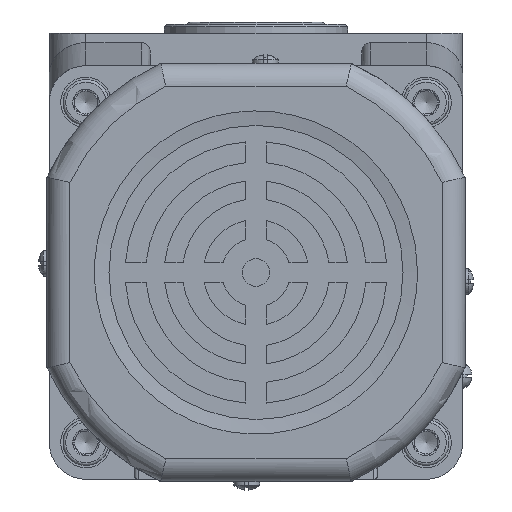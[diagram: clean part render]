
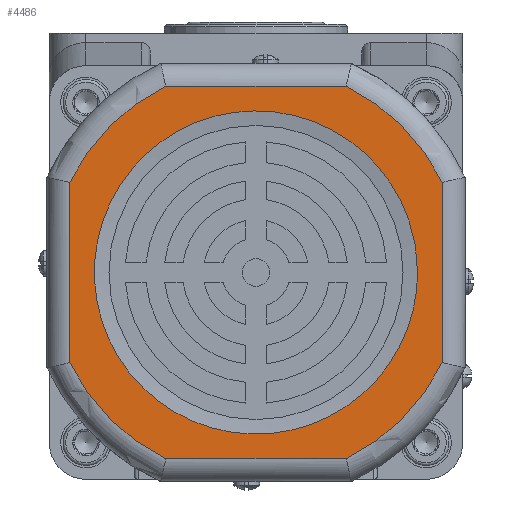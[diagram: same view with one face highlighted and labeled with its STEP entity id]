
A CAD part, front view. The second image highlights one B-rep face of the part: STEP entity #4486.
In plain terms, the highlighted planar face has unit normal (0, -1, 0).
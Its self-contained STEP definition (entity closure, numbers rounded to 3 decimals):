
#1315=LINE('',#21899,#2098);
#1316=LINE('',#21901,#2099);
#1318=LINE('',#21904,#2101);
#1320=LINE('',#21907,#2103);
#2098=VECTOR('',#17512,1.);
#2099=VECTOR('',#17515,1.);
#2101=VECTOR('',#17519,1.);
#2103=VECTOR('',#17523,1.);
#2419=B_SPLINE_CURVE_WITH_KNOTS('',3,(#21910,#21911,#21912,#21913,#21914,
#21915,#21916,#21917,#21918,#21919,#21920,#21921,#21922,#21923,#21924,#21925,
#21926,#21927,#21928,#21929,#21930,#21931,#21932,#21933,#21934,#21935,#21936,
#21937,#21938,#21939,#21940,#21941,#21942,#21943),.UNSPECIFIED.,.T.,.F.,
(2,2,2,2,2,2,2,2,2,2,2,2,2,2,2,2,2,2,2),(-0.062,0.,0.063,
0.125,0.188,0.25,0.313,0.375,0.438,0.5,0.563,0.625,0.688,0.75,0.813,
0.875,0.938,1.,1.063),.UNSPECIFIED.);
#4486=ADVANCED_FACE('',(#5320,#5321),#4948,.T.);
#4948=PLANE('',#14335);
#5320=FACE_BOUND('',#6129,.T.);
#5321=FACE_BOUND('',#6130,.T.);
#6129=EDGE_LOOP('',(#8859));
#6130=EDGE_LOOP('',(#8860,#8861,#8862,#8863,#8864,#8865,#8866,#8867));
#8859=ORIENTED_EDGE('',*,*,#11921,.F.);
#8860=ORIENTED_EDGE('',*,*,#11914,.T.);
#8861=ORIENTED_EDGE('',*,*,#11910,.T.);
#8862=ORIENTED_EDGE('',*,*,#11919,.T.);
#8863=ORIENTED_EDGE('',*,*,#11906,.T.);
#8864=ORIENTED_EDGE('',*,*,#11917,.T.);
#8865=ORIENTED_EDGE('',*,*,#11902,.T.);
#8866=ORIENTED_EDGE('',*,*,#11915,.T.);
#8867=ORIENTED_EDGE('',*,*,#11898,.T.);
#10406=VERTEX_POINT('',#21786);
#10408=VERTEX_POINT('',#21789);
#10410=VERTEX_POINT('',#21817);
#10412=VERTEX_POINT('',#21820);
#10414=VERTEX_POINT('',#21848);
#10416=VERTEX_POINT('',#21851);
#10418=VERTEX_POINT('',#21879);
#10420=VERTEX_POINT('',#21882);
#10422=VERTEX_POINT('',#21944);
#11898=EDGE_CURVE('',#10408,#10406,#12840,.T.);
#11902=EDGE_CURVE('',#10412,#10410,#12842,.T.);
#11906=EDGE_CURVE('',#10416,#10414,#12844,.T.);
#11910=EDGE_CURVE('',#10420,#10418,#12846,.T.);
#11914=EDGE_CURVE('',#10406,#10420,#1315,.T.);
#11915=EDGE_CURVE('',#10410,#10408,#1316,.T.);
#11917=EDGE_CURVE('',#10414,#10412,#1318,.T.);
#11919=EDGE_CURVE('',#10418,#10416,#1320,.T.);
#11921=EDGE_CURVE('',#10422,#10422,#2419,.T.);
#12840=CIRCLE('',#14319,45.);
#12842=CIRCLE('',#14322,45.);
#12844=CIRCLE('',#14325,45.);
#12846=CIRCLE('',#14328,45.);
#14319=AXIS2_PLACEMENT_3D('',#21788,#17487,#17488);
#14322=AXIS2_PLACEMENT_3D('',#21819,#17493,#17494);
#14325=AXIS2_PLACEMENT_3D('',#21850,#17499,#17500);
#14328=AXIS2_PLACEMENT_3D('',#21881,#17505,#17506);
#14335=AXIS2_PLACEMENT_3D('',#21945,#17527,#17528);
#17487=DIRECTION('',(0.,-1.,0.));
#17488=DIRECTION('',(1.,0.,0.));
#17493=DIRECTION('',(0.,-1.,0.));
#17494=DIRECTION('',(1.,0.,0.));
#17499=DIRECTION('',(0.,-1.,0.));
#17500=DIRECTION('',(1.,0.,0.));
#17505=DIRECTION('',(0.,-1.,0.));
#17506=DIRECTION('',(1.,0.,0.));
#17512=DIRECTION('',(-1.,0.,0.));
#17515=DIRECTION('',(0.,0.,1.));
#17519=DIRECTION('',(1.,0.,0.));
#17523=DIRECTION('',(0.,0.,-1.));
#17527=DIRECTION('',(0.,-1.,0.));
#17528=DIRECTION('',(1.,0.,0.));
#21786=CARTESIAN_POINT('',(19.615,-219.,-11.5));
#21788=CARTESIAN_POINT('',(0.,-219.,-52.));
#21789=CARTESIAN_POINT('',(40.5,-219.,-32.385));
#21817=CARTESIAN_POINT('',(40.5,-219.,-71.615));
#21819=CARTESIAN_POINT('',(0.,-219.,-52.));
#21820=CARTESIAN_POINT('',(19.615,-219.,-92.5));
#21848=CARTESIAN_POINT('',(-19.615,-219.,-92.5));
#21850=CARTESIAN_POINT('',(0.,-219.,-52.));
#21851=CARTESIAN_POINT('',(-40.5,-219.,-71.615));
#21879=CARTESIAN_POINT('',(-40.5,-219.,-32.385));
#21881=CARTESIAN_POINT('',(0.,-219.,-52.));
#21882=CARTESIAN_POINT('',(-19.615,-219.,-11.5));
#21899=CARTESIAN_POINT('',(-20.73,-219.,-11.5));
#21901=CARTESIAN_POINT('',(40.5,-219.,-31.27));
#21904=CARTESIAN_POINT('',(20.73,-219.,-92.5));
#21907=CARTESIAN_POINT('',(-40.5,-219.,-72.73));
#21910=CARTESIAN_POINT('',(35.157,-219.,-56.602));
#21911=CARTESIAN_POINT('',(35.157,-219.,-47.398));
#21912=CARTESIAN_POINT('',(34.242,-219.,-42.798));
#21913=CARTESIAN_POINT('',(30.72,-219.,-34.294));
#21914=CARTESIAN_POINT('',(28.114,-219.,-30.394));
#21915=CARTESIAN_POINT('',(21.606,-219.,-23.886));
#21916=CARTESIAN_POINT('',(17.706,-219.,-21.28));
#21917=CARTESIAN_POINT('',(9.202,-219.,-17.758));
#21918=CARTESIAN_POINT('',(4.602,-219.,-16.843));
#21919=CARTESIAN_POINT('',(-4.602,-219.,-16.843));
#21920=CARTESIAN_POINT('',(-9.202,-219.,-17.758));
#21921=CARTESIAN_POINT('',(-17.706,-219.,-21.28));
#21922=CARTESIAN_POINT('',(-21.606,-219.,-23.886));
#21923=CARTESIAN_POINT('',(-28.114,-219.,-30.394));
#21924=CARTESIAN_POINT('',(-30.72,-219.,-34.294));
#21925=CARTESIAN_POINT('',(-34.242,-219.,-42.798));
#21926=CARTESIAN_POINT('',(-35.157,-219.,-47.398));
#21927=CARTESIAN_POINT('',(-35.157,-219.,-56.602));
#21928=CARTESIAN_POINT('',(-34.242,-219.,-61.202));
#21929=CARTESIAN_POINT('',(-30.72,-219.,-69.706));
#21930=CARTESIAN_POINT('',(-28.114,-219.,-73.606));
#21931=CARTESIAN_POINT('',(-21.606,-219.,-80.114));
#21932=CARTESIAN_POINT('',(-17.706,-219.,-82.72));
#21933=CARTESIAN_POINT('',(-9.202,-219.,-86.242));
#21934=CARTESIAN_POINT('',(-4.602,-219.,-87.157));
#21935=CARTESIAN_POINT('',(4.602,-219.,-87.157));
#21936=CARTESIAN_POINT('',(9.202,-219.,-86.242));
#21937=CARTESIAN_POINT('',(17.706,-219.,-82.72));
#21938=CARTESIAN_POINT('',(21.606,-219.,-80.114));
#21939=CARTESIAN_POINT('',(28.114,-219.,-73.606));
#21940=CARTESIAN_POINT('',(30.72,-219.,-69.706));
#21941=CARTESIAN_POINT('',(34.242,-219.,-61.202));
#21942=CARTESIAN_POINT('',(35.157,-219.,-56.602));
#21943=CARTESIAN_POINT('',(35.157,-219.,-47.398));
#21944=CARTESIAN_POINT('',(35.157,-219.,-52.));
#21945=CARTESIAN_POINT('',(0.,-219.,-16.843));
